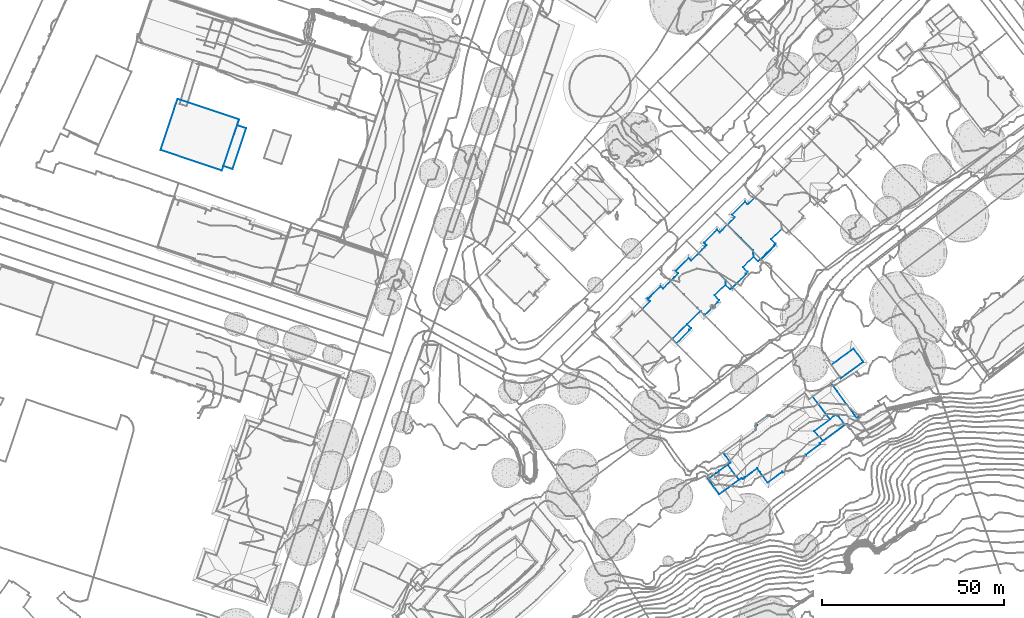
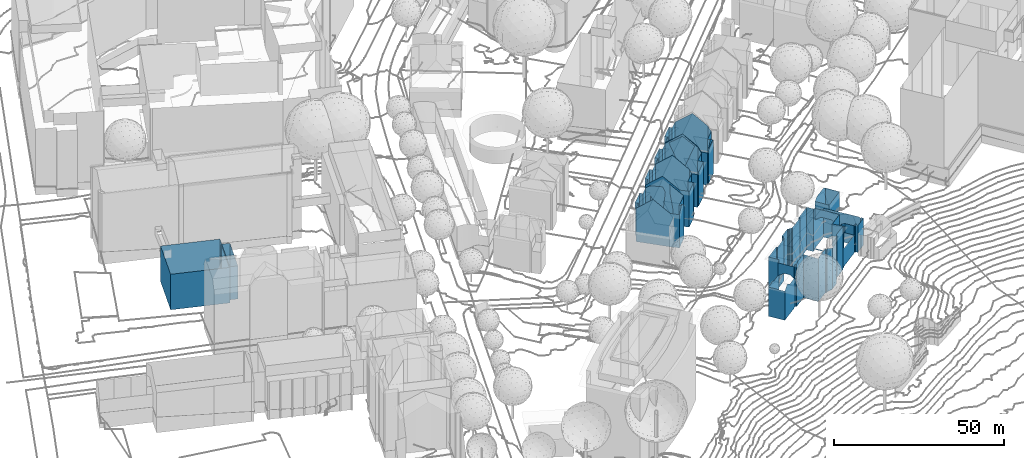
# Not in any storey, part 25 of 477: 7 walls.
"""IFC4 building model written with IfcOpenShell, lengths in metres."""

from ifc_helpers import new_model, si_unit, frame, origin_with_axes, place, context, subcontext, project, spatial, polygons, element, save


model = new_model("IFC4")

# Units and contexts
model_context = context("Model", 3, precision=1e-05, world=origin_with_axes())
body_context = subcontext(model_context, "Body", "Model", "MODEL_VIEW")
ifc_project = project(units=[si_unit("AREAUNIT", "SQUARE_METRE"), si_unit("LENGTHUNIT", "METRE")], contexts=[model_context])

# Sites, building
site_1_placement = place(None, origin_with_axes())
site_1 = spatial("IfcSite", under=ifc_project, at=site_1_placement, Name="Topoexport Site")
site_2_placement = place(site_1_placement, origin_with_axes())
site_2 = spatial("IfcSite", under=site_1, at=site_2_placement, Name="TPX_BUILDINGS")
building_1_placement = place(site_2_placement, frame((173.5807320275, 98.186316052, 528.0961), z_axis=(0.0, 0.0, 1.0), x_axis=(1.0, 0.0, 0.0)))
building_1 = spatial("IfcBuilding", under=site_2, at=building_1_placement, Name="Building 31", CompositionType="ELEMENT")

# Wall
wall_1_placement = place(None, frame((173.5807320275, 98.186316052, 528.0961), z_axis=(0.0, 0.0, 1.0), x_axis=(1.0, 0.0, 0.0)))
element("IfcWall", 1, at=wall_1_placement, inside=building_1, Name="Wall 0", context=body_context, shape_type="Tessellation", body=[
    polygons([(1.0150000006, 0.7412, 0.0), (2.6099999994, 1.9063000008, 0.0), (1.1739999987, 0.8575000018, 7.6082), (3.1510000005, 2.3018000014, 2.9247), (4.1730000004, 3.0489000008, 7.5362), (3.0130000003, 2.2001999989, 7.5642), (0.0, 0.0, 6.6523), (0.0, 0.0, 0.0), (1.2459999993, -1.7060000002, 6.6293), (2.5949999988, -3.5537, -0.0001), (2.5920000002, -3.5507000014, 6.6043), (2.6530000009, -3.6347000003, 6.5363), (2.6530000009, -3.6347000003, -0.0001), (6.7740000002, -0.625, 6.5913), (8.693, 0.7763999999, 6.6173), (8.8049999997, 0.8584000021, -0.0001), (5.748999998, -1.373999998, -0.0001), (4.8889999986, 3.5703000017, 0.0), (8.1009999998, 1.8233000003, 6.5443), (6.1530000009, 4.4932000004, 6.6003), (6.1530000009, 4.4932000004, 0.0), (5.0500000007, 3.688500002, 7.5162), (8.8049999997, 0.8584000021, 6.5233)], [[[3, 2, 1]], [[2, 3, 4]], [[6, 5, 4]], [[8, 7, 3]], [[1, 8, 3]], [[10, 9, 8]], [[10, 11, 9]], [[10, 12, 11]], [[12, 10, 13]], [[16, 15, 14]], [[17, 16, 14]], [[14, 12, 17]], [[17, 12, 13]], [[2, 5, 18]], [[21, 20, 19]], [[22, 20, 18]], [[6, 4, 3]], [[5, 2, 4]], [[7, 8, 9]], [[18, 5, 22]], [[16, 23, 15]], [[19, 16, 21]], [[23, 16, 19]], [[20, 21, 18]]]),
])

# Building
building_2_placement = place(site_2_placement, frame((160.7467320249, 68.8533160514, 524.6524), z_axis=(0.0, 0.0, 1.0), x_axis=(1.0, 0.0, 0.0)))
building_2 = spatial("IfcBuilding", under=site_2, at=building_2_placement, Name="Building 63", CompositionType="ELEMENT")

# Wall
wall_2_placement = place(None, frame((160.7467320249, 68.8533160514, 524.6524), z_axis=(0.0, 0.0, 1.0), x_axis=(1.0, 0.0, 0.0)))
element("IfcWall", 2, at=wall_2_placement, inside=building_2, Name="Wall 1", context=body_context, shape_type="Tessellation", body=[
    polygons([(9.6160000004, 7.7530000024, 15.3945), (9.7750000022, 7.5351999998, 10.225), (9.7750000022, 7.5351999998, 15.4145), (2.1630000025, 0.5274000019, -0.068), (4.3800000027, 2.1933999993, 14.7285), (4.3800000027, 2.1933999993, -0.068), (4.694000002, 2.6006000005, -0.068), (4.694000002, 2.6006000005, 14.8385), (5.2080000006, 3.4942000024, -0.068), (4.9700000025, 3.0362000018, 14.9875), (5.2080000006, 3.4942000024, 15.1685), (4.9700000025, 3.0362000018, -0.068), (5.4050000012, 3.9717000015, -0.068), (5.7530000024, 4.5976999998, -0.068), (5.9300000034, 4.3544999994, -0.068), (5.9300000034, 4.3544999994, 15.3735), (-7.4729999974, 0.7959000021, 15.4845), (-7.4729999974, 0.7959000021, -0.068), (-7.5319999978, 0.8632999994, 7.7602), (-7.5319999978, 0.8632999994, -0.068), (-6.7879999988, -0.1464999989, 3.9136), (-5.9399999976, -1.3104999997, 15.3805), (-6.0219999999, -1.1981999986, -0.068), (-4.6849999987, -3.0381000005, 11.4069), (-4.6849999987, -3.0381000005, 15.2955), (-4.6849999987, -3.0381000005, -0.068), (-4.6849999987, -3.0381000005, 7.5192), (-6.7759999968, -0.1631000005, 15.4375), (-0.6710000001, -0.1053999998, 15.7045), (-0.4979999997, -0.3418000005, 15.4665), (-0.6710000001, -0.1053999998, 7.8182), (-0.6710000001, -0.1053999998, -0.068), (-0.4979999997, -0.3418000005, -0.068), (0.0340000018, 0.0234999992, 15.4435), (0.0340000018, 0.0234999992, -0.068), (0.5250000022, 0.067400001, 15.2315), (0.5250000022, 0.067400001, -0.068), (1.0109999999, 0.1504000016, 15.0475), (1.0109999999, 0.1504000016, -0.068), (1.4630000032, 0.2675999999, 14.9025), (1.4650000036, 0.2675999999, -0.068), (1.4870000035, 0.2754000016, 11.1539), (1.4870000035, 0.2754000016, -0.068), (1.5950000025, 0.3125, 3.9526), (1.7210000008, 0.3555000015, 11.0919), (1.7210000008, 0.3555000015, 3.6096), (1.8370000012, 0.3955000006, 14.8015), (1.9539999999, 0.4356000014, 14.7715), (1.8370000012, 0.3955000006, 3.5786), (1.9539999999, 0.4356000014, -0.068), (1.6480000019, 0.3300999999, 14.8525), (2.1630000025, 0.5274000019, 14.7285), (5.5450000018, 21.6367000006, -0.068), (0.9130000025, 18.2558999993, 15.1985), (0.9130000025, 18.2558999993, -0.068), (5.5450000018, 21.6367000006, 3.7576), (5.5450000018, 21.6367000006, 15.2335), (8.1400000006, 11.0918000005, 6.6703), (10.5880000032, 8.4688000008, 14.6826), (8.1400000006, 11.0918000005, 14.6826), (8.1400000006, 11.0918000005, -0.068), (10.5880000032, 8.4688000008, 0.1969), (8.1400000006, 11.0918000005, 0.1969), (12.4710000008, 14.3535000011, 14.6826), (12.4710000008, 14.3535000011, 10.016), (12.4710000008, 14.3535000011, 6.6703), (12.4710000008, 14.3535000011, -0.068), (12.4710000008, 14.3535000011, 0.1969), (-12.2789999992, 8.6132999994, -0.068), (-16.9019999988, 5.2382999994, 7.5053), (-16.9019999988, 5.2382999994, -0.068), (-12.2789999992, 8.6132999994, 15.1555), (-14.5899999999, 6.9268000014, 15.1365), (-11.6019999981, -2.1092999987, 7.5203), (-11.8499999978, -1.7705000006, 11.3179), (-11.8499999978, -1.7705000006, 15.1135), (-11.6019999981, -2.1094000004, -0.068), (-11.8499999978, -1.7705000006, 7.5223), (-11.8499999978, -1.7705000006, 3.7276), (-11.8499999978, -1.7705000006, -0.068), (-3.0629999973, 15.0371000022, -0.068), (-2.9339999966, 15.0850000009, -0.068), (-2.9339999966, 15.0850000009, 15.0645), (-3.1989999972, 15.0127000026, 15.0195), (-3.1989999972, 15.0127000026, -0.068), (-3.0629999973, 15.0372000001, 15.0475), (-3.3369999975, 15.0117000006, -0.068), (-3.3369999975, 15.0117000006, 14.9835), (-3.4719999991, 15.0342000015, 14.9396), (-3.4719999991, 15.0342000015, -0.068), (-3.6639999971, 15.1104000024, 14.8616), (-3.6639999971, 15.1104000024, -0.068), (-3.8299999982, 15.2324000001, 14.7736), (-3.8299999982, 15.2324000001, -0.068), (-3.8699999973, 15.2030999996, 14.7736), (-3.8699999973, 15.2030999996, -0.068), (-3.9909999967, 15.3682000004, 14.6826), (-3.9909999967, 15.3682000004, -0.068), (-4.2079999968, 15.2050999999, -0.068), (-4.2079999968, 15.2050999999, 14.6826), (-7.9919999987, 12.3535000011, -0.068), (-7.5029999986, 12.7217000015, -0.068), (-7.9919999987, 12.3535000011, 14.6826), (-7.5029999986, 12.7217000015, 14.6826), (-7.9149999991, 12.2481000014, -0.068), (-7.9549999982, 12.2197999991, 14.7406), (-7.9549999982, 12.2197999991, -0.068), (-7.9149999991, 12.2481000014, 14.7406), (-7.8889999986, 12.0234999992, 14.8276), (-7.8889999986, 12.0234999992, -0.068), (-7.875, 11.8164000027, 14.9046), (-7.875, 11.8164000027, -0.068), (-7.8959999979, 11.6797000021, 14.9476), (-7.8959999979, 11.6797000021, -0.068), (-7.9389999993, 11.5489000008, 14.9825), (-7.9389999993, 11.5488000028, -0.068), (-8.0029999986, 11.4268000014, 15.0085), (-8.0029999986, 11.4268000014, -0.068), (-8.0878999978, 11.317400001, 15.0245), (-8.0879999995, 11.3175000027, -0.068), (-8.0589999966, 11.2774000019, 7.4893), (-8.0589999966, 11.2774000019, -0.068), (-2.9029999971, 15.0430000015, 15.0875), (-2.9029999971, 15.0430000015, -0.068), (-4.4869999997, 15.5419999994, -0.068), (-4.2929999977, 15.2754000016, 14.6826), (-4.4869999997, 15.5419999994, 14.6826), (-7.8029999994, 13.1220999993, 14.6826), (-4.2719999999, 15.2910000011, -0.068), (-4.2719999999, 15.2910000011, 14.6826), (-4.2929999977, 15.2754000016, -0.068), (-12.5309999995, -2.2675999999, 10.464), (-13.3329999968, -1.2010999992, 11.4629), (-12.5299999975, -2.2675999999, 14.6826), (-14.443, 0.2725000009, 11.4629), (-15.6519999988, 1.8780000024, 10.061), (-15.6519999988, 1.8780000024, 14.6826), (16.813000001, 13.0498000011, 2.8137), (16.813000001, 13.0498000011, 5.5834), (16.9630000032, 12.8438000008, 0.3329), (16.9630000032, 12.8438000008, 10.255), (16.813000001, 13.0498000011, 0.3329), (20.9470000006, 14.9453000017, 0.3329), (17.6490000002, 12.4600000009, 10.016), (20.9470000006, 14.9453000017, 10.016), (20.7070000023, 15.2646999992, 0.3329), (20.7070000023, 15.2646999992, 10.016), (7.762000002, 20.6064999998, 10.539), (8.9000000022, 19.0967000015, 11.9998), (7.762000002, 20.6064999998, 14.6826), (10.9910000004, 16.3252000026, 11.9998), (7.762000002, 20.6064999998, -0.068), (8.9000000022, 19.0967000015, 0.3329), (7.762000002, 20.6064999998, 0.3329), (10.9910000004, 16.3252000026, 0.3329), (12.4710000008, 14.3535000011, 0.3329), (14.825000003, 15.2588, 0.1969), (16.5910000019, 12.8867000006, 0.3329), (14.825000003, 15.2588, 0.3329), (13.8940000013, 15.4824000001, 0.1969), (13.8940000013, 15.4824000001, 0.3329), (13.4810000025, 15.2655999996, 0.1969), (13.4810000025, 15.2655999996, 0.3329), (16.5910000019, 12.8867000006, 6.6703), (14.825000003, 15.2588, 10.016), (16.5920000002, 12.8867000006, 10.016), (13.8940000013, 15.4824000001, 6.6703), (13.4810000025, 15.2655999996, 10.016), (13.8940000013, 15.4824000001, 10.016), (13.4810000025, 15.2655999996, 6.6703), (14.825000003, 15.2588, 6.6703), (6.8060000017, 19.9081999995, 15.2605), (6.8060000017, 19.9081999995, -0.068), (12.8330000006, 24.3115000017, 0.3329), (12.8330000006, 24.3115000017, 10.609), (5.5620000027, 21.6132999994, 15.2455), (9.5900000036, 7.4004000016, 15.5495), (9.7750000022, 7.5351999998, -0.068), (6.7770000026, 5.3456999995, 15.6015), (5.7530000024, 4.5976999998, 15.6175), (-1.8509999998, -0.9677000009, 15.7215), (-1.8509999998, -0.9677000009, -0.068), (-4.1559999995, -2.6512999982, 15.7465), (-4.1559999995, -2.6512999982, -0.068), (1.1150000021, 17.9785000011, 15.2265), (0.9550000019, 18.1983000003, 15.2275), (1.1150000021, 17.9785000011, -0.068), (-12.0789999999, 8.3399000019, -0.068), (-12.0789999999, 8.3399000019, 15.2075), (-11.7219999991, 8.6006000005, 15.0175), (-8.0589999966, 11.2774000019, 15.0465), (-12.2149999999, 8.5254000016, 15.2055), (-14.867999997, 2.4521999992, -0.068), (-16.9019999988, 5.2382999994, 15.1165), (-14.867999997, 2.4521999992, 15.1795), (-16.7889999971, 5.0830000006, 15.2045), (-11.6019999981, -2.1094000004, 15.1105), (-11.0119999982, -1.6787, 15.4845), (-10.9069999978, -1.6024999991, 15.6605), (-7.5319999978, 0.8632999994, 15.5895), (-10.9069999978, -1.6024999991, -0.068), (-11.0119999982, -1.6787, -0.068), (0.9360000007, 17.8476999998, -0.068), (0.9360000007, 17.8476999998, 15.1185), (-4.5849999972, 15.4717000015, -0.068), (-7.8029999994, 13.1220999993, -0.068), (-4.5849999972, 15.4717000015, 14.6826), (-20.1969999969, -3.182599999, -0.22), (-17.9599999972, -6.2333999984, 10.231), (-17.9599999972, -6.2333999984, -0.22), (-20.1969999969, -3.182599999, 10.271), (-21.0489999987, -2.0194999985, -0.22), (-21.0489999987, -2.0194999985, 10.226), (-18.8389999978, -0.4569999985, -0.22), (-18.8389999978, -0.4569999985, 10.382), (-20.925999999, -1.932599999, 10.324), (-16.2929999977, -5.0155999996, 11.5049), (-15.1559999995, -4.1854999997, 10.5), (-17.2149999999, -5.6893999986, -0.22), (-16.5599999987, -5.2108999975, 11.5199), (-17.2149999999, -5.6893999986, 10.9909), (-16.4949999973, -5.1631000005, -0.22), (-12.5299999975, -2.2675999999, -0.068), (-12.5309999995, -2.2675999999, -0.22), (-15.1559999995, -4.1854999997, -0.22), (-15.6519999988, 1.8780000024, -0.22), (-15.6519999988, 1.8780000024, -0.068), (16.813000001, 13.0498000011, 10.258), (10.5880000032, 8.4688000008, 6.6703), (9.6160000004, 7.7530000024, -0.068), (16.5910000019, 12.8867000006, 0.1969), (10.5880000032, 8.4688000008, -0.068), (17.2290000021, 13.0381000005, 10.5479), (17.2290000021, 13.0381000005, 0.3329), (17.2780000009, 12.9706999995, 0.3329), (17.6490000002, 12.4600000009, 0.3329), (17.2780000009, 12.9706999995, 10.5469), (19.7880000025, 14.7842000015, 10.496), (20.4240000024, 15.1162, 10.271), (20.2520000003, 15.0263999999, 10.423), (19.7880000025, 14.7842000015, 0.3329), (20.2410000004, 15.0205000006, 0.3329), (-18.432, -0.1581999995, -0.22), (-18.2019999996, 0.009800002, -0.22), (-17.981999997, 0.1709000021, 10.034), (-17.981999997, 0.1709000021, -0.22), (-18.2019999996, 0.009800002, 10.274), (-18.432, -0.1581999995, 10.387), (14.4370000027, 22.1143000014, 10.7349), (12.9020000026, 24.2178000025, 10.699), (14.4370000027, 22.1143000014, 0.3329), (12.9020000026, 24.2178000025, 0.3329), (19.2700000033, 15.4932000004, 0.3329), (19.2700000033, 15.4932000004, 10.8329), (19.5520000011, 15.1084000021, 0.3329), (19.5520000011, 15.1084000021, 10.8339), (5.4050000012, 3.9717000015, 15.3815)], [[[3, 2, 1]], [[6, 5, 4]], [[8, 5, 7]], [[11, 10, 9]], [[10, 12, 9]], [[11, 9, 13]], [[16, 15, 14]], [[19, 18, 17]], [[19, 20, 18]], [[23, 22, 21]], [[25, 22, 24]], [[27, 23, 26]], [[28, 18, 21]], [[23, 21, 18]], [[31, 30, 29]], [[31, 32, 30]], [[30, 32, 33]], [[33, 35, 34]], [[30, 33, 34]], [[37, 36, 35]], [[37, 39, 38]], [[38, 39, 40]], [[40, 39, 41]], [[43, 42, 40]], [[43, 40, 41]], [[46, 45, 44]], [[49, 48, 47]], [[47, 45, 49]], [[48, 49, 50]], [[50, 49, 46]], [[51, 44, 45]], [[42, 51, 40]], [[46, 44, 43]], [[46, 43, 50]], [[52, 48, 4]], [[4, 48, 50]], [[55, 54, 53]], [[57, 56, 54]], [[56, 53, 54]], [[60, 59, 58]], [[63, 62, 61]], [[65, 64, 60]], [[65, 58, 66]], [[58, 65, 60]], [[68, 63, 67]], [[71, 70, 69]], [[73, 72, 70]], [[69, 70, 72]], [[76, 75, 74]], [[75, 78, 77]], [[79, 77, 78]], [[79, 80, 77]], [[83, 82, 81]], [[81, 85, 84]], [[86, 81, 84]], [[88, 85, 87]], [[90, 89, 87]], [[92, 91, 89]], [[92, 89, 90]], [[91, 94, 93]], [[91, 92, 94]], [[96, 95, 94]], [[95, 93, 94]], [[96, 97, 95]], [[97, 96, 98]], [[100, 97, 99]], [[97, 98, 99]], [[103, 102, 101]], [[102, 103, 104]], [[105, 103, 101]], [[107, 106, 105]], [[105, 106, 108]], [[107, 109, 106]], [[109, 107, 110]], [[112, 111, 109]], [[112, 109, 110]], [[114, 113, 112]], [[116, 115, 113]], [[113, 114, 116]], [[115, 116, 117]], [[117, 116, 118]], [[117, 120, 119]], [[117, 118, 120]], [[119, 120, 121]], [[121, 120, 122]], [[82, 83, 123]], [[124, 82, 123]], [[127, 126, 125]], [[104, 128, 102]], [[130, 100, 129]], [[126, 130, 131]], [[134, 133, 132]], [[133, 134, 135]], [[135, 137, 136]], [[137, 135, 134]], [[140, 139, 138]], [[141, 139, 140]], [[140, 138, 142]], [[145, 144, 143]], [[147, 145, 146]], [[150, 149, 148]], [[149, 150, 151]], [[151, 64, 65]], [[64, 151, 150]], [[154, 153, 152]], [[152, 153, 155]], [[155, 156, 68]], [[68, 67, 155]], [[155, 67, 152]], [[159, 158, 157]], [[161, 159, 160]], [[163, 161, 162]], [[156, 163, 68]], [[166, 165, 164]], [[169, 168, 167]], [[168, 65, 170]], [[165, 169, 171]], [[172, 150, 148]], [[148, 173, 172]], [[173, 148, 154]], [[175, 174, 154]], [[154, 152, 173]], [[175, 154, 148]], [[53, 56, 173]], [[176, 172, 57]], [[172, 173, 56]], [[172, 56, 57]], [[2, 3, 177]], [[14, 178, 2]], [[179, 2, 177]], [[179, 180, 14]], [[179, 14, 2]], [[181, 31, 29]], [[182, 31, 27]], [[32, 31, 182]], [[24, 181, 183]], [[24, 183, 25]], [[26, 184, 27]], [[184, 182, 27]], [[181, 24, 27]], [[27, 31, 181]], [[186, 54, 185]], [[55, 187, 54]], [[54, 187, 185]], [[189, 121, 188]], [[190, 121, 189]], [[190, 191, 121]], [[188, 121, 122]], [[188, 69, 72]], [[189, 188, 72]], [[192, 189, 72]], [[195, 194, 193]], [[194, 195, 196]], [[71, 193, 70]], [[70, 193, 194]], [[198, 197, 19]], [[199, 198, 19]], [[19, 200, 199]], [[19, 197, 74]], [[19, 74, 20]], [[201, 20, 74]], [[202, 201, 74]], [[74, 77, 202]], [[124, 123, 203]], [[203, 204, 187]], [[203, 123, 204]], [[187, 204, 185]], [[206, 128, 205]], [[127, 125, 207]], [[210, 209, 208]], [[208, 209, 211]], [[208, 213, 212]], [[213, 208, 211]], [[214, 212, 213]], [[213, 216, 215]], [[213, 215, 214]], [[218, 217, 209]], [[75, 132, 78]], [[75, 134, 132]], [[79, 78, 219]], [[132, 210, 78]], [[132, 218, 210]], [[76, 134, 75]], [[221, 217, 220]], [[209, 210, 218]], [[222, 79, 219]], [[219, 78, 210]], [[80, 79, 223]], [[225, 224, 223]], [[223, 79, 225]], [[222, 225, 79]], [[209, 217, 221]], [[227, 224, 226]], [[224, 227, 223]], [[228, 166, 139]], [[229, 59, 1]], [[164, 139, 166]], [[62, 138, 139]], [[62, 139, 164]], [[164, 229, 62]], [[229, 230, 62]], [[142, 138, 158]], [[62, 231, 158]], [[138, 62, 158]], [[232, 62, 230]], [[1, 230, 229]], [[141, 140, 233]], [[140, 234, 233]], [[236, 144, 235]], [[235, 144, 237]], [[237, 233, 234]], [[237, 234, 235]], [[239, 147, 238]], [[238, 240, 239]], [[147, 241, 238]], [[242, 241, 147]], [[242, 147, 146]], [[245, 244, 243]], [[245, 246, 244]], [[226, 246, 227]], [[193, 227, 136]], [[227, 246, 245]], [[243, 214, 215]], [[136, 137, 195]], [[248, 247, 245]], [[245, 136, 227]], [[248, 245, 215]], [[195, 193, 136]], [[215, 245, 243]], [[175, 250, 249]], [[249, 251, 175]], [[175, 252, 174]], [[251, 252, 175]], [[249, 254, 253]], [[238, 253, 254]], [[249, 253, 251]], [[241, 255, 238]], [[238, 255, 253]], [[254, 256, 238]], [[1, 2, 178]], [[230, 1, 178]], [[52, 4, 5]], [[5, 6, 7]], [[8, 7, 10]], [[12, 10, 7]], [[257, 11, 13]], [[15, 16, 13]], [[257, 13, 16]], [[14, 180, 16]], [[200, 19, 17]], [[24, 22, 23]], [[24, 23, 27]], [[28, 21, 22]], [[17, 18, 28]], [[34, 35, 36]], [[36, 37, 38]], [[49, 45, 46]], [[51, 45, 47]], [[44, 51, 42]], [[42, 43, 44]], [[59, 229, 58]], [[62, 232, 61]], [[63, 61, 67]], [[194, 73, 70]], [[74, 75, 77]], [[76, 74, 197]], [[86, 83, 81]], [[84, 85, 88]], [[88, 87, 89]], [[108, 103, 105]], [[111, 112, 113]], [[191, 119, 121]], [[126, 131, 125]], [[128, 206, 102]], [[100, 99, 129]], [[130, 129, 131]], [[228, 139, 141]], [[144, 236, 143]], [[145, 143, 146]], [[158, 231, 157]], [[159, 157, 160]], [[161, 160, 162]], [[163, 162, 68]], [[165, 171, 164]], [[168, 170, 167]], [[65, 66, 170]], [[169, 167, 171]], [[128, 207, 205]], [[125, 205, 207]]]),
])

# Building
building_3_placement = place(site_2_placement, frame((-10.9342679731, 157.2918160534, 524.6136), z_axis=(0.0, 0.0, 1.0), x_axis=(1.0, 0.0, 0.0)))
building_3 = spatial("IfcBuilding", under=site_2, at=building_3_placement, Name="Building 146", CompositionType="ELEMENT")

# Wall
wall_3_placement = place(None, frame((-10.9342679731, 157.2918160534, 524.6136), z_axis=(0.0, 0.0, 1.0), x_axis=(1.0, 0.0, 0.0)))
element("IfcWall", 3, at=wall_3_placement, inside=building_3, Name="Wall 0", context=body_context, shape_type="Tessellation", body=[
    polygons([(21.2219999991, 6.7558999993, 0.176), (23.5460000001, 5.9354999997, 12.0449), (21.2219999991, 6.7558999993, 12.0449), (21.2390000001, 6.8037, 0.176), (21.2390000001, 6.8037, 12.0449), (21.0749999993, 6.8594000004, 0.176), (21.0749999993, 6.8594000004, 12.0449), (23.5460000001, 5.9354999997, 0.176), (19.7899999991, -5.2871000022, 12.0449), (16.8500000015, -5.6377000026, 12.7548), (17.2980000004, -4.4092000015, 12.7548), (17.2980000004, -4.4092000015, 12.0449), (17.2980000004, -4.4092000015, 0.176), (16.8500000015, -5.6377000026, 0.0), (17.2980000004, -4.4092000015, 0.0), (4.6970000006, 14.0351999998, 0.0001), (21.5859999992, 8.3838, 12.7548), (4.6970000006, 14.0351999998, 12.7548), (0.0, 0.0, 0.0), (0.0, 0.0, 12.7548), (19.7899999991, -5.2871000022, 0.176), (21.5859999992, 8.3838, 0.0)], [[[3, 2, 1]], [[5, 3, 4]], [[7, 5, 6]], [[2, 9, 8]], [[12, 11, 10]], [[12, 14, 13]], [[13, 14, 15]], [[18, 17, 16]], [[20, 18, 19]], [[10, 20, 14]], [[12, 21, 9]], [[17, 7, 22]], [[7, 17, 11]], [[22, 6, 15]], [[11, 12, 7]], [[13, 15, 6]], [[2, 8, 1]], [[3, 1, 4]], [[5, 4, 6]], [[9, 21, 8]], [[10, 14, 12]], [[17, 22, 16]], [[18, 16, 19]], [[20, 19, 14]], [[13, 21, 12]], [[7, 6, 22]]]),
])

# Building
building_4_placement = place(site_2_placement, frame((121.6327320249, 113.5477160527, 529.229), z_axis=(0.0, 0.0, 1.0), x_axis=(1.0, 0.0, 0.0)))
building_4 = spatial("IfcBuilding", under=site_2, at=building_4_placement, Name="Building 156", CompositionType="ELEMENT")

# Wall
wall_4_placement = place(None, frame((121.6327320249, 113.5477160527, 529.229), z_axis=(0.0, 0.0, 1.0), x_axis=(1.0, 0.0, 0.0)))
element("IfcWall", 4, at=wall_4_placement, inside=building_4, Name="Wall 0", context=body_context, shape_type="Tessellation", body=[
    polygons([(15.943, -0.5274000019, 0.0), (12.2860000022, -4.1367999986, 0.11), (15.943, -0.5274000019, 11.1639), (8.1550000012, -8.2149000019, 0.0), (8.1550000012, -8.2149000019, 0.11), (1.5050000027, 2.7030999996, 0.0), (5.0610000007, 6.2137999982, 0.581), (1.5050000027, 2.7030999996, 0.581), (1.2850000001, 1.2773000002, 4.0726), (0.0, 0.0, 5.9304), (0.0, 0.0, 0.0), (2.1090000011, 2.0947000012, 0.0), (2.1090000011, 2.0947000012, 7.4053), (2.1090000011, 2.0947000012, 11.8529), (2.1090000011, 2.0947000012, 2.9577), (13.376000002, -5.2413000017, 0.11), (12.8720000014, -5.7422000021, 0.11), (13.376000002, -5.2413000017, 11.1639), (12.8720000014, -5.7422000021, 11.8219), (12.9780000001, -5.8487000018, 0.11), (12.9780000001, -5.8487000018, 5.2335), (12.2860000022, -4.1367999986, 11.1639), (11.4760000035, 3.9510999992, 0.0), (7.745000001, 7.6904000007, 11.8359), (7.745000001, 7.6904000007, 0.0), (11.4760000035, 3.9510999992, 16.0845), (1.4030000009, 2.8055999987, 11.7039), (1.9800000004, 2.2245999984, 11.7059), (1.4030000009, 2.8055999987, 0.581), (5.6550000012, 5.6162, 0.0), (5.6770000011, 5.6376000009, 11.8419), (5.6550000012, 5.6162, 11.8729), (4.943, 6.3330000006, 11.8379), (1.5170000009, 2.9199000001, 0.581), (4.943, 6.3330000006, 0.581), (1.5170000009, 2.9199000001, 11.8609), (5.0610000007, 6.2137999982, 0.0), (4.9690000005, 6.3066000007, 11.8759), (11.1170000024, -7.697300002, 0.11), (9.3650000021, -9.4365999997, 0.11), (9.3650000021, -9.4365999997, 12.0388), (11.1170000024, -7.697300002, 14.2506), (12.9780000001, -5.8487000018, 11.8219), (7.3680000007, -7.4239000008, 12.0318), (3.699000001, -3.7265999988, 0.0), (3.699000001, -3.7265999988, 16.0845), (0.0, 0.0, 11.8609)], [[[3, 2, 1]], [[2, 5, 4]], [[2, 4, 1]], [[8, 7, 6]], [[11, 10, 9]], [[11, 9, 12]], [[14, 13, 9]], [[15, 9, 13]], [[15, 12, 9]], [[18, 17, 16]], [[18, 19, 17]], [[21, 20, 17]], [[22, 16, 2]], [[25, 24, 23]], [[3, 24, 26]], [[3, 1, 23]], [[3, 23, 24]], [[28, 27, 13]], [[13, 14, 28]], [[27, 29, 13]], [[15, 29, 8]], [[29, 15, 13]], [[12, 8, 6]], [[8, 12, 15]], [[32, 31, 30]], [[24, 25, 30]], [[24, 30, 31]], [[34, 29, 33]], [[35, 34, 33]], [[27, 36, 33]], [[27, 33, 29]], [[37, 7, 30]], [[35, 33, 7]], [[33, 38, 32]], [[30, 7, 32]], [[32, 7, 33]], [[20, 21, 39]], [[40, 39, 21]], [[43, 42, 41]], [[21, 41, 40]], [[41, 21, 43]], [[5, 44, 10]], [[41, 44, 5]], [[5, 40, 41]], [[45, 4, 5]], [[47, 44, 46]], [[10, 45, 5]], [[45, 10, 11]], [[10, 44, 47]], [[22, 2, 3]], [[7, 37, 6]], [[10, 47, 9]], [[47, 14, 9]], [[19, 43, 17]], [[17, 43, 21]], [[18, 16, 22]]]),
])

# Building
building_5_placement = place(site_2_placement, frame((145.0367320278, 136.7889160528, 530.3359), z_axis=(0.0, 0.0, 1.0), x_axis=(1.0, 0.0, 0.0)))
building_5 = spatial("IfcBuilding", under=site_2, at=building_5_placement, Name="Building 157", CompositionType="ELEMENT")

# Wall
wall_5_placement = place(None, frame((145.0367320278, 136.7889160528, 530.3359), z_axis=(0.0, 0.0, 1.0), x_axis=(1.0, 0.0, 0.0)))
element("IfcWall", 5, at=wall_5_placement, inside=building_5, Name="Wall 0", context=body_context, shape_type="Tessellation", body=[
    polygons([(14.7809999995, 0.5907999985, 0.0), (14.8420000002, -0.4834000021, 11.9409), (14.7809999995, 0.5907999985, 12.5908), (14.9709999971, -1.1367999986, 0.0), (12.0219999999, -4.0478999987, 11.5389), (14.9709999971, -1.1367999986, 11.5389), (14.8420000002, -0.4834000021, 0.0), (4.8559999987, 6.2558000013, 12.1719), (5.5709999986, 5.5361000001, 0.0), (5.5709999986, 5.5361000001, 6.8474), (4.8559999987, 6.2558000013, 0.0), (7.1789999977, -8.8291000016, 0.0), (7.0009999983, -7.0918000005, 0.0), (7.1789999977, -8.8291000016, 11.5389), (2.0229999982, 2.0097000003, 7.6143), (1.3139999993, 2.7236000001, 0.0), (2.0229999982, 2.0097000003, 12.1838), (2.0229999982, 2.0097000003, 0.0), (1.3139999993, 2.7236000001, 12.1849), (13.2839999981, -5.3251999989, 0.0), (13.1219999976, -5.4864000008, 11.7209), (13.2839999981, -5.3251999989, 11.5389), (12.9549999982, -5.6534000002, 2.8107), (12.7569999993, -5.8506000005, 0.0), (12.0219999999, -4.0478999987, 0.0), (12.8619999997, -5.9571000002, 9.0081), (12.7889999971, -5.8858000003, 12.1108), (12.7619999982, -5.8594000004, 0.0), (12.8619999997, -5.9571000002, 0.0), (12.7619999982, -5.8594000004, 12.1358), (8.9679999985, -9.6143000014, 0.0), (8.9679999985, -9.6143000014, 11.9329), (9.0729999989, -9.7197999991, 0.0), (9.0729999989, -9.7197999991, 8.9491), (9.0729999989, -9.7197999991, 2.9827), (8.4560000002, -10.1220999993, 0.0), (8.4560000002, -10.1220999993, 11.5389), (12.7569999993, -5.8506000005, 12.1328), (11.4719999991, 3.942400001, 0.0), (7.7559999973, 7.7080000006, 12.1309), (7.7559999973, 7.7080000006, 0.0), (11.4719999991, 3.9422999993, 16.2305), (5.5989999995, 5.5634000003, 12.1399), (5.5709999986, 5.5361000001, 12.1729), (7.6840000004, 7.6356999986, 12.1319), (7.6840000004, 7.6356999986, 0.0), (3.6909999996, -3.7382999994, 0.0), (7.0009999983, -7.0918000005, 12.5908), (0.0, 0.0, 12.1509), (0.0, 0.0, 0.0), (3.6909999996, -3.7382999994, 16.1655), (1.2390000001, 1.2303999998, 12.1459), (1.993999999, 1.9803999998, 12.1519), (10.9100000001, -7.6895000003, 14.2096), (10.9100000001, -7.6895000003, 12.1358), (9.2289999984, -9.3487000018, 12.1358), (9.2019999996, -9.5927999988, 12.0318), (12.8619999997, -5.9571000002, 12.0418), (9.0729999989, -9.7197999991, 11.9329), (9.2779999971, -9.5175999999, 0.0), (12.9159999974, -5.691399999, 11.9529)], [[[3, 2, 1]], [[6, 5, 4]], [[2, 6, 7]], [[10, 9, 8]], [[8, 9, 11]], [[14, 13, 12]], [[17, 16, 15]], [[15, 16, 18]], [[19, 11, 16]], [[22, 21, 20]], [[20, 21, 23]], [[23, 24, 20]], [[5, 20, 25]], [[20, 5, 22]], [[28, 27, 26]], [[28, 26, 29]], [[28, 30, 27]], [[33, 32, 31]], [[32, 35, 34]], [[37, 12, 36]], [[12, 37, 14]], [[32, 37, 31]], [[38, 30, 24]], [[41, 40, 39]], [[3, 40, 42]], [[3, 1, 39]], [[3, 39, 40]], [[44, 43, 10]], [[45, 10, 43]], [[46, 45, 40]], [[46, 40, 41]], [[9, 10, 46]], [[10, 45, 46]], [[13, 48, 47]], [[47, 48, 49]], [[47, 49, 50]], [[49, 48, 51]], [[50, 15, 18]], [[15, 50, 49]], [[49, 52, 15]], [[15, 53, 17]], [[53, 15, 52]], [[55, 30, 54]], [[54, 56, 55]], [[34, 26, 57]], [[58, 57, 26]], [[26, 35, 29]], [[34, 57, 59]], [[29, 35, 60]], [[33, 60, 35]], [[35, 26, 34]], [[2, 7, 1]], [[5, 25, 4]], [[6, 4, 7]], [[44, 10, 8]], [[48, 13, 14]], [[17, 19, 16]], [[8, 11, 19]], [[21, 61, 23]], [[38, 24, 61]], [[23, 61, 24]], [[26, 27, 58]], [[59, 32, 34]], [[32, 33, 35]], [[37, 36, 31]], [[30, 28, 24]]]),
])

# Building
building_6_placement = place(site_2_placement, frame((129.3807320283, 121.2410160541, 529.389), z_axis=(0.0, 0.0, 1.0), x_axis=(1.0, 0.0, 0.0)))
building_6 = spatial("IfcBuilding", under=site_2, at=building_6_placement, Name="Building 158", CompositionType="ELEMENT")

# Wall
wall_6_placement = place(None, frame((129.3807320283, 121.2410160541, 529.389), z_axis=(0.0, 0.0, 1.0), x_axis=(1.0, 0.0, 0.0)))
element("IfcWall", 6, at=wall_6_placement, inside=building_6, Name="Wall 0", context=body_context, shape_type="Tessellation", body=[
    polygons([(9.1939999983, -9.2207000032, 0.0), (9.186999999, -9.2129000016, 12.8897), (9.3859999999, -9.4131000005, 0.0), (9.3859999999, -9.4131000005, 12.6598), (12.9469999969, -5.875, 12.6728), (12.9780000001, -5.8447000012, 0.0), (10.9439999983, -7.8652000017, 0.0), (12.8719999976, -5.7383000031, 12.6418), (12.9780000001, -5.8447000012, 12.6408), (12.8719999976, -5.7383000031, 0.0), (13.3809999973, -5.2334000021, 0.0), (13.3809999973, -5.2334000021, 12.1118), (12.0719999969, -3.9072000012, 0.0), (12.0719999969, -3.9072000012, 12.1118), (8.4499999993, -8.4756000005, 0.0), (9.061999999, -9.0879000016, 12.8887), (8.8649999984, -8.8906000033, 4.0266), (8.4489999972, -8.4746000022, 12.8858), (7.4229999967, -7.4453000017, 0.0), (7.800999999, -7.8242000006, 12.8408), (7.9459999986, -7.9707000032, 3.1867), (7.4399999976, -7.4619000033, 12.8158), (7.3149999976, -7.3369000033, 12.8138), (7.3539999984, -7.376000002, 12.8128), (7.368999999, -7.3916000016, 0.0), (11.436999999, 4.0, 0.0), (15.1030000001, 0.2861999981, 12.7888), (11.436999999, 4.0, 16.8384), (15.0709999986, -0.9463, 0.0), (15.0709999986, -0.9463, 12.1058), (15.1030000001, 0.2861999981, 0.0), (5.2979999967, -5.3164000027, 0.0), (6.1779999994, -6.1982000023, 3.5536), (5.8539999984, -5.8721000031, 14.4236), (4.6719999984, -4.6894000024, 15.7255), (3.6529999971, -3.6670000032, 0.0), (3.6739999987, -3.688500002, 16.8244), (2.129999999, 2.1093999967, 12.7838), (2.0779999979, 2.1630999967, 0.0), (2.0789999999, 2.1620999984, 12.7268), (0.9789999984, 0.9696999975, 12.7858), (0.0, 0.0, 0.0), (1.0649999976, 1.0546999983, 0.0), (2.129999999, 2.1093999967, 0.0), (1.1019999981, -1.1103000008, 14.0087), (1.1019999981, -1.1103000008, 0.0), (1.7799999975, -1.7900000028, 14.7586), (5.6769999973, 5.6347999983, 12.7708), (5.6769999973, 5.6347999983, 0.0), (6.1789999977, 6.1338, 0.0), (7.7709999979, 7.7148999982, 0.0), (7.7709999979, 7.7148999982, 12.7588), (1.7569999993, 2.4853999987, 12.7258), (1.4139999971, 2.8310999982, 0.0), (1.4139999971, 2.8310999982, 12.7238), (3.2419999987, 4.6386999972, 12.8168), (1.4979999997, 2.9140999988, 12.8188), (1.4689999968, 2.8847999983, 0.0), (4.9139999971, 6.2929999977, 0.0), (4.9139999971, 6.2929999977, 12.8148), (5.6549999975, 5.6562999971, 12.7468), (4.9689999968, 6.3476999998, 0.0), (4.9689999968, 6.3476999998, 12.7498), (0.0, 0.0, 12.7878), (3.6619999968, -3.6767000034, 16.8384), (6.3359999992, 6.2900999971, 12.7688)], [[[3, 2, 1]], [[3, 4, 2]], [[7, 6, 5]], [[7, 4, 3]], [[4, 7, 5]], [[9, 6, 8]], [[8, 6, 10]], [[11, 8, 10]], [[12, 8, 11]], [[14, 12, 13]], [[12, 11, 13]], [[9, 5, 6]], [[17, 16, 15]], [[1, 2, 17]], [[16, 18, 15]], [[17, 15, 1]], [[21, 20, 19]], [[15, 18, 20]], [[15, 20, 21]], [[21, 19, 15]], [[19, 20, 22]], [[25, 24, 23]], [[28, 27, 26]], [[30, 13, 29]], [[27, 30, 31]], [[25, 33, 32]], [[33, 25, 23]], [[34, 33, 23]], [[37, 36, 35]], [[35, 36, 32]], [[40, 39, 38]], [[43, 42, 41]], [[43, 41, 44]], [[46, 45, 42]], [[45, 37, 47]], [[36, 37, 45]], [[36, 45, 46]], [[50, 49, 48]], [[52, 51, 50]], [[26, 52, 28]], [[26, 51, 52]], [[40, 53, 39]], [[53, 54, 39]], [[57, 56, 55]], [[56, 58, 55]], [[60, 59, 56]], [[56, 59, 58]], [[62, 61, 49]], [[63, 61, 62]], [[60, 63, 59]], [[16, 17, 2]], [[24, 19, 22]], [[25, 19, 24]], [[27, 31, 26]], [[14, 13, 30]], [[30, 29, 31]], [[34, 35, 33]], [[33, 35, 32]], [[61, 48, 49]], [[44, 38, 39]], [[41, 42, 64]], [[38, 44, 41]], [[64, 42, 45]], [[37, 65, 47]], [[48, 66, 50]], [[66, 52, 50]], [[54, 55, 58]], [[55, 54, 53]], [[63, 62, 59]]]),
])

# Building
building_7_placement = place(site_2_placement, frame((137.1517320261, 128.9559160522, 529.729), z_axis=(0.0, 0.0, 1.0), x_axis=(1.0, 0.0, 0.0)))
building_7 = spatial("IfcBuilding", under=site_2, at=building_7_placement, Name="Building 159", CompositionType="ELEMENT")

# Wall
wall_7_placement = place(None, frame((137.1517320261, 128.9559160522, 529.729), z_axis=(0.0, 0.0, 1.0), x_axis=(1.0, 0.0, 0.0)))
element("IfcWall", 7, at=wall_7_placement, inside=building_7, Name="Wall 0", context=body_context, shape_type="Tessellation", body=[
    polygons([(5.6860000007, 5.6484000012, 0.0), (5.995000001, 5.9560000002, 12.4218), (5.7239999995, 5.6865000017, 12.4198), (6.4840000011, 6.4404000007, 0.0), (6.4880000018, 6.4453000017, 12.4258), (7.8850000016, 7.8330000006, 0.0), (7.8210000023, 7.7694999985, 12.4218), (7.7970000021, 7.746100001, 0.0), (7.8850000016, 7.8330000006, 12.4218), (11.5760000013, 4.0947000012, 16.7724), (11.5760000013, 4.0947000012, 0.0), (0.9160000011, 0.9111000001, 12.4438), (0.0, 0.0, 12.4478), (0.0, 0.0, 0.0), (0.9400000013, 0.9345000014, 0.0), (3.6660000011, -3.7148999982, 0.0), (3.6660000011, -3.7148999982, 16.7084), (14.8859999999, 0.7412, 12.8677), (1.5460000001, 1.5370999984, 5.0485), (1.5529999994, 1.5439000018, 12.4368), (2.0360000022, 2.0234000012, 12.4318), (2.1350000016, 2.1220000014, 0.0), (1.745000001, 2.5146000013, 12.5488), (2.1350000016, 2.1220000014, 12.5498), (1.6730000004, 2.5879000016, 5.6854), (1.4470000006, 2.8143999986, 12.5478), (1.4270000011, 2.8348999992, 0.0), (4.9609999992, 6.3583999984, 0.0), (5.6860000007, 5.6484000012, 12.4668), (4.9609999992, 6.3583999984, 12.4808), (4.943, 6.3407999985, 12.5028), (1.427099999, 2.8348999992, 12.5238), (7.3000000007, -8.6611999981, 0.0), (7.3320000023, -7.4287, 0.0), (7.3000000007, -8.6611999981, 11.7658), (7.3320000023, -7.4287, 12.4488), (15.0639999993, -0.996100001, 0.0), (12.1390000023, -3.8847999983, 11.7578), (15.0639999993, -0.996100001, 11.7578), (14.8859999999, 0.7412, 0.0), (8.5989999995, -9.9794999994, 0.0), (8.5989999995, -9.9794999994, 11.7608), (9.0729999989, -9.5078999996, 12.2938), (9.1790000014, -9.6143000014, 12.2938), (9.0729999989, -9.5078000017, 0.0), (12.9100000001, -5.7793000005, 12.3758), (12.868999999, -5.7382999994, 12.3758), (12.868999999, -5.7382999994, 0.0), (12.9030000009, -5.7725000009, 0.0), (12.9750000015, -5.8438000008, 12.3048), (13.4239999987, -5.1875, 0.0), (13.4239999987, -5.1875, 11.7578), (12.1390000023, -3.8847999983, 0.0), (12.9750000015, -5.8438000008, 0.0), (9.3619999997, -9.4327000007, 0.0), (9.1790000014, -9.6143000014, 0.0), (12.0789999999, -6.7344000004, 12.3018), (9.319000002, -9.4756000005, 12.2938)], [[[3, 2, 1]], [[5, 4, 2]], [[2, 4, 1]], [[8, 7, 6]], [[6, 7, 9]], [[5, 7, 4]], [[6, 9, 10]], [[11, 6, 10]], [[14, 13, 12]], [[12, 15, 14]], [[17, 13, 16]], [[13, 14, 16]], [[10, 18, 11]], [[15, 20, 19]], [[20, 21, 19]], [[19, 22, 15]], [[24, 23, 22]], [[23, 26, 25]], [[25, 27, 22]], [[29, 1, 28]], [[31, 30, 28]], [[26, 32, 27]], [[31, 27, 32]], [[28, 27, 31]], [[35, 34, 33]], [[36, 16, 34]], [[39, 38, 37]], [[18, 39, 40]], [[43, 42, 41]], [[41, 42, 35]], [[33, 41, 35]], [[43, 45, 44]], [[43, 41, 45]], [[48, 47, 46]], [[49, 48, 46]], [[46, 50, 49]], [[52, 48, 51]], [[47, 48, 52]], [[38, 52, 53]], [[52, 51, 53]], [[50, 54, 49]], [[44, 56, 55]], [[55, 50, 57]], [[57, 58, 55]], [[7, 8, 4]], [[18, 40, 11]], [[12, 20, 15]], [[21, 22, 19]], [[23, 25, 22]], [[26, 27, 25]], [[24, 22, 21]], [[3, 1, 29]], [[28, 30, 29]], [[36, 34, 35]], [[17, 16, 36]], [[38, 53, 37]], [[39, 37, 40]], [[44, 45, 56]], [[58, 44, 55]], [[50, 55, 54]]]),
])

save(model, "model.ifc")
